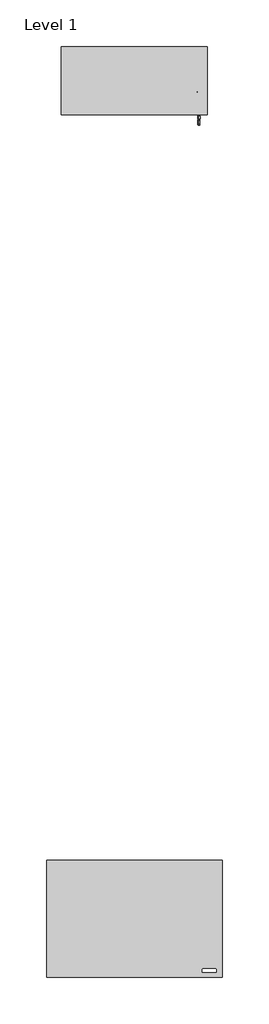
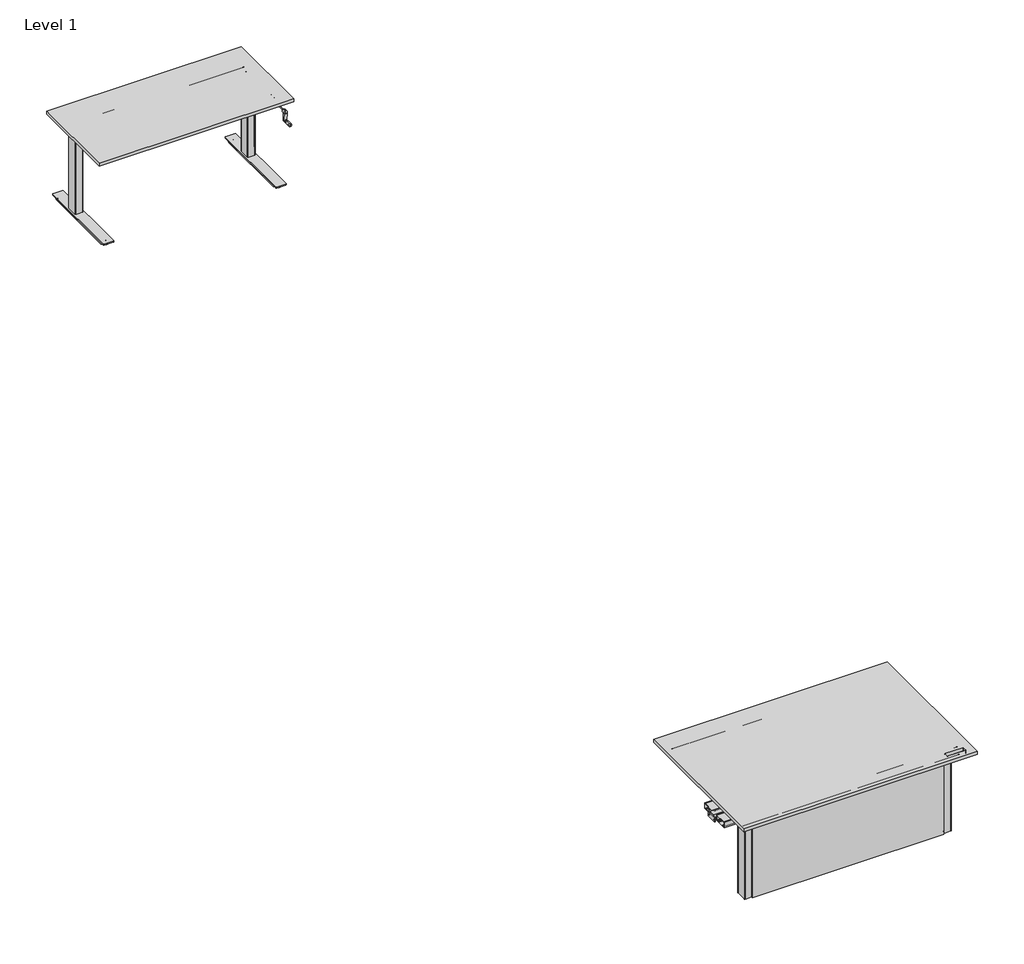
# One storey, incomplete: 2 furniture elements.
"""IFC4 building model written with IfcOpenShell, lengths in millimetres."""

from ifc_helpers import new_model, si_unit, origin, place, context, project, spatial, transform, mapped, element, save
from components import travel_manual_workstations_desk_travel_manual_workstations_a020447c, travel_manual_workstations_desk_travel_manual_workstations_e242d452, travel_manual_workstations_desk_travel_manual_workstations_938992ed, travel_manual_workstations_desk_travel_manual_workstations_5fa617ca, travel_meeting_table_travel_meeting_table_b9e7bf96, travel_meeting_table_travel_meeting_table_bcbf1248, travel_meeting_table_travel_meeting_table_50cc2492

model = new_model("IFC4")

# Units and contexts
model_context = context("Model", 3, world=origin())
ifc_project = project(units=[si_unit("LENGTHUNIT", "METRE", prefix="MILLI")], contexts=[model_context])

# Site, building, storey
site = spatial("IfcSite", under=ifc_project)
building = spatial("IfcBuilding", under=site)
storey = spatial("IfcBuildingStorey", under=building, Name="Level 1", Elevation=0.0)

# Furniture
placement = place(None, origin())
travel_manual_workstations_desk_travel_manual_workstations_shape = travel_manual_workstations_desk_travel_manual_workstations_a020447c(model_context)
travel_manual_workstations_desk_travel_manual_workstations_2_shape = travel_manual_workstations_desk_travel_manual_workstations_e242d452(model_context)
travel_manual_workstations_desk_travel_manual_workstations_3_shape = travel_manual_workstations_desk_travel_manual_workstations_938992ed(model_context)
travel_manual_workstations_desk_travel_manual_workstations_4_shape = travel_manual_workstations_desk_travel_manual_workstations_5fa617ca(model_context)
element("IfcFurniture", 1, ObjectType="Travel Manual Workstations_Desk : Travel Manual Workstations_Desk", at=placement, inside=storey, context=model_context, shape_type="MappedRepresentation", body=[
    mapped(travel_manual_workstations_desk_travel_manual_workstations_shape, transform((-8973.3789217, 1017.7994548, 0.0), x_axis=(1.0, 0.0, 0.0), y_axis=(0.0, 1.0, 0.0), z_axis=(0.0, 0.0, 1.0))),
    mapped(travel_manual_workstations_desk_travel_manual_workstations_2_shape, transform((-8973.3789217, 1017.7994548, 0.0), x_axis=(1.0, 0.0, 0.0), y_axis=(0.0, 1.0, 0.0), z_axis=(0.0, 0.0, 1.0))),
    mapped(travel_manual_workstations_desk_travel_manual_workstations_3_shape, transform((-8973.3789217, 1017.7994548, 0.0), x_axis=(1.0, 0.0, 0.0), y_axis=(0.0, 1.0, 0.0), z_axis=(0.0, 0.0, 1.0))),
    mapped(travel_manual_workstations_desk_travel_manual_workstations_4_shape, transform((-8973.3789217, 1017.7994548, 0.0), x_axis=(1.0, 0.0, 0.0), y_axis=(0.0, 1.0, 0.0), z_axis=(0.0, 0.0, 1.0))),
])
travel_meeting_table_travel_meeting_table_shape = travel_meeting_table_travel_meeting_table_b9e7bf96(model_context)
travel_meeting_table_travel_meeting_table_2_shape = travel_meeting_table_travel_meeting_table_bcbf1248(model_context)
travel_meeting_table_travel_meeting_table_3_shape = travel_meeting_table_travel_meeting_table_50cc2492(model_context)
element("IfcFurniture", 2, ObjectType="Travel Meeting Table : Travel Meeting Table", at=placement, inside=storey, context=model_context, shape_type="MappedRepresentation", body=[
    mapped(travel_meeting_table_travel_meeting_table_shape, transform((-8973.3789217, -7582.2005452, 0.0), x_axis=(1.0, 0.0, 0.0), y_axis=(0.0, 1.0, 0.0), z_axis=(0.0, 0.0, 1.0))),
    mapped(travel_meeting_table_travel_meeting_table_2_shape, transform((-8973.3789217, -7582.2005452, 0.0), x_axis=(1.0, 0.0, 0.0), y_axis=(0.0, 1.0, 0.0), z_axis=(0.0, 0.0, 1.0))),
    mapped(travel_meeting_table_travel_meeting_table_3_shape, transform((-8973.3789217, -7582.2005452, 0.0), x_axis=(1.0, 0.0, 0.0), y_axis=(0.0, 1.0, 0.0), z_axis=(0.0, 0.0, 1.0))),
])

save(model, "model.ifc")
